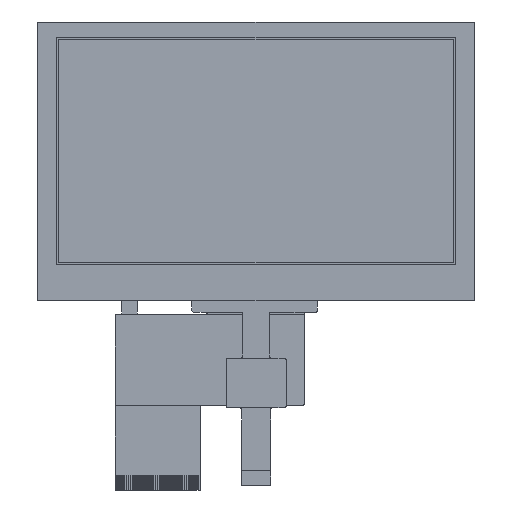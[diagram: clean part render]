
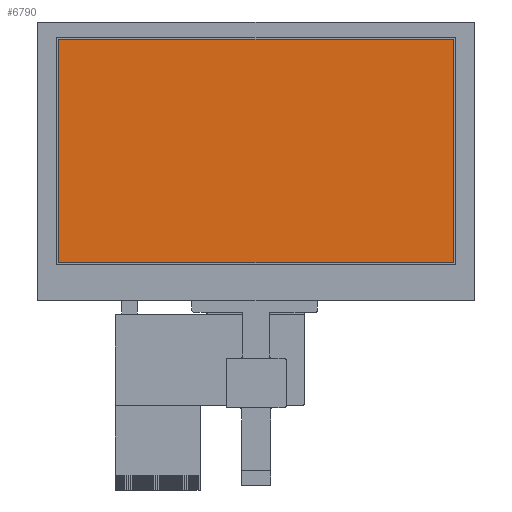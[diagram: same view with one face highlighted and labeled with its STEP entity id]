
A CAD part, top view. The second image highlights one B-rep face of the part: STEP entity #6790.
In plain terms, the highlighted planar face has unit normal (0, 0, 1).
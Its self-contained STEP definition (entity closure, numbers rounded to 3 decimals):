
#191 = VECTOR ( 'NONE', #3587, 1000. ) ;
#236 = VECTOR ( 'NONE', #5040, 1000. ) ;
#248 = LINE ( 'NONE', #11705, #2235 ) ;
#407 = EDGE_CURVE ( 'NONE', #7490, #2808, #3178, .T. ) ;
#1604 = LINE ( 'NONE', #9876, #236 ) ;
#1989 = CARTESIAN_POINT ( 'NONE',  ( -52.559, 14.783, 0.705 ) ) ;
#2235 = VECTOR ( 'NONE', #12694, 1000. ) ;
#2599 = CARTESIAN_POINT ( 'NONE',  ( 42.481, -39.077, 0.705 ) ) ;
#2808 = VERTEX_POINT ( 'NONE', #6097 ) ;
#3032 = ORIENTED_EDGE ( 'NONE', *, *, #12297, .T. ) ;
#3178 = LINE ( 'NONE', #6539, #11813 ) ;
#3407 = VERTEX_POINT ( 'NONE', #7745 ) ;
#3587 = DIRECTION ( 'NONE',  ( 0., 1., 0. ) ) ;
#3792 = VERTEX_POINT ( 'NONE', #7532 ) ;
#4753 = CARTESIAN_POINT ( 'NONE',  ( 0., 0., 0.705 ) ) ;
#5040 = DIRECTION ( 'NONE',  ( 1., 0., 0. ) ) ;
#5384 = ORIENTED_EDGE ( 'NONE', *, *, #10624, .T. ) ;
#5496 = EDGE_LOOP ( 'NONE', ( #5384, #9647, #12778, #3032 ) ) ;
#6097 = CARTESIAN_POINT ( 'NONE',  ( -52.559, -39.077, 0.705 ) ) ;
#6539 = CARTESIAN_POINT ( 'NONE',  ( -52.559, 14.783, 0.705 ) ) ;
#6790 = ADVANCED_FACE ( 'NONE', ( #11151 ), #10636, .T. ) ;
#7490 = VERTEX_POINT ( 'NONE', #1989 ) ;
#7532 = CARTESIAN_POINT ( 'NONE',  ( 42.481, 14.783, 0.705 ) ) ;
#7662 = AXIS2_PLACEMENT_3D ( 'NONE', #4753, #7725, #11925 ) ;
#7725 = DIRECTION ( 'NONE',  ( 0., 0., 1. ) ) ;
#7745 = CARTESIAN_POINT ( 'NONE',  ( 42.481, -39.077, 0.705 ) ) ;
#9429 = LINE ( 'NONE', #2599, #191 ) ;
#9558 = DIRECTION ( 'NONE',  ( 0., -1., 0. ) ) ;
#9647 = ORIENTED_EDGE ( 'NONE', *, *, #407, .T. ) ;
#9876 = CARTESIAN_POINT ( 'NONE',  ( -52.559, -39.077, 0.705 ) ) ;
#10624 = EDGE_CURVE ( 'NONE', #3792, #7490, #248, .T. ) ;
#10636 = PLANE ( 'NONE',  #7662 ) ;
#10700 = EDGE_CURVE ( 'NONE', #2808, #3407, #1604, .T. ) ;
#11151 = FACE_OUTER_BOUND ( 'NONE', #5496, .T. ) ;
#11705 = CARTESIAN_POINT ( 'NONE',  ( 42.481, 14.783, 0.705 ) ) ;
#11813 = VECTOR ( 'NONE', #9558, 1000. ) ;
#11925 = DIRECTION ( 'NONE',  ( 1., 0., 0. ) ) ;
#12297 = EDGE_CURVE ( 'NONE', #3407, #3792, #9429, .T. ) ;
#12694 = DIRECTION ( 'NONE',  ( -1., 0., 0. ) ) ;
#12778 = ORIENTED_EDGE ( 'NONE', *, *, #10700, .T. ) ;
